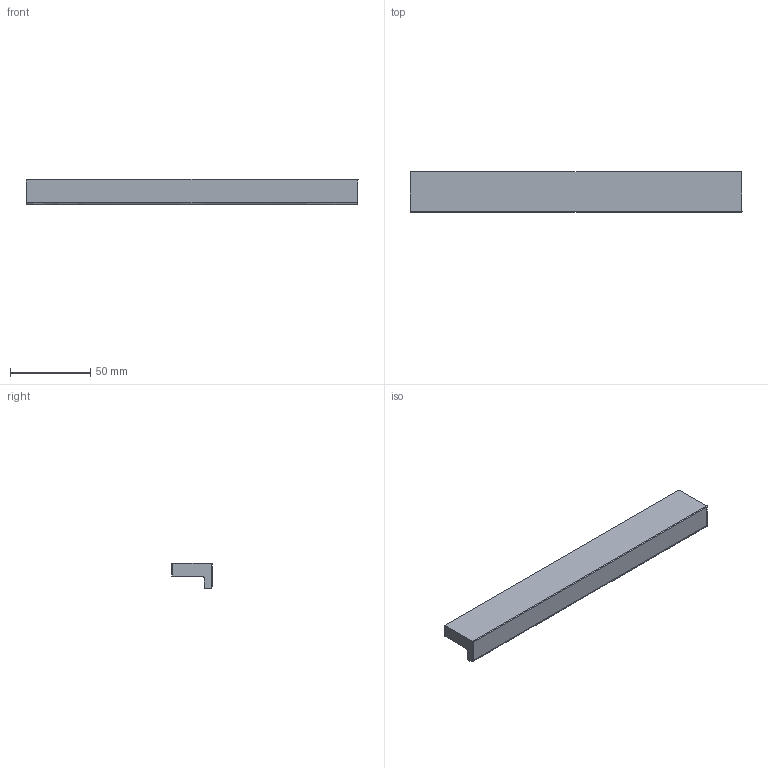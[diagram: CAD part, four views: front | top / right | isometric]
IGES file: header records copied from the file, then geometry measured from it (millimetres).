
Start section: Data from Parasolid IGES Translator 15.0.47, Copyright(c) 2006 Siemens P LM Software. All Rights Reserved.
Global section: file name: 9204024.igs; native system:  By UGS Corp.; preprocessor: XPlus GENERIC/IGES 3.0; author: Noname; organization: Noname; date: 20151204.112622; units: millimetre
Bounding box: 207.01 x 25 x 16 mm (x, y, z)
Surface area: 17293.8 mm2 (no closed solid volume)
Topology: 0 solids, 0 shells, 20 faces, 92 edges, 90 vertices
Faces by surface type: extrusion 10, revolution 10
